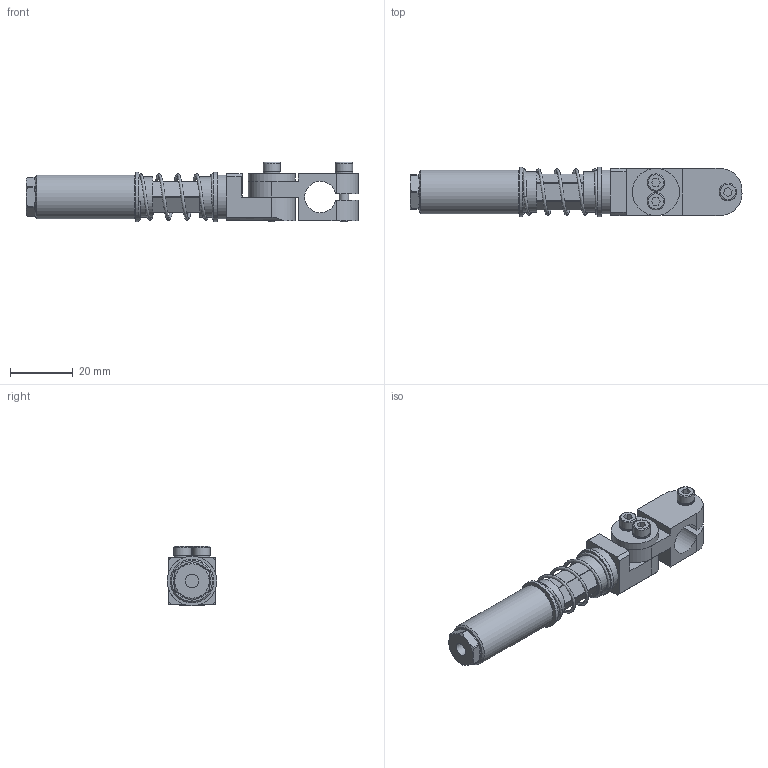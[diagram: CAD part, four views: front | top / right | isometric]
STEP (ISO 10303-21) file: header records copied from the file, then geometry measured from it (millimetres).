
FILE_DESCRIPTION(('STEP AP214'),'1');
FILE_NAME('CA.SAM.141510.stp','2022-01-24T12:45:15',(' '),(' '),'Spatial InterOp 3D',' ',' ');
FILE_SCHEMA(('AUTOMOTIVE_DESIGN { 1 0 10303 214 1 1 1 1 }'));
Length unit declared in the file: millimetre
Products named in the file (13): CA.SAM.141510; V.TCE3x16; R.3.SCH; GVR.10.3; GVR.10.2; M.15x35; ASSEM1; SAE.14181815.4; SAE.14181815.5; SAE.14181815.3; SAE.14181815.2; SAM.1410.1
Assembly tree (17 placements, depth 3):
  CA.SAM.141510
    V.TCE3x16  x3
    R.3.SCH  x3
    GVR.10.3
    GVR.10.2
    M.15x35
      ASSEM1
      M.15x35
    SAE.14181815.4  x2
    SAE.14181815.5
    SAE.14181815.3
    SAE.14181815.2
    SAM.1410.1
Bounding box: 106 x 15.79 x 19 mm (x, y, z)
Volume: 13906 mm3; surface area: 14436.7 mm2
Topology: 15 solids, 15 shells, 791 faces, 2311 edges, 1558 vertices
Faces by surface type: plane 677, cylinder 74, cone 29, torus 7, bspline 4
Full cylindrical faces by diameter (mm): 2.5 x2, 2.7 x1, 3 x3, 3.2 x3, 3.5 x3, 4.2 x1, 5.5 x6, 6.5 x1, 6.8 x3, 8 x3, 8.2 x2, 9.9 x1, 10 x1, 10.1 x1, 11.5 x2, 12.9 x2, 14 x2, 15 x1, 15.8 x2
Entity records: 16650 total; most frequent: CARTESIAN_POINT 3664, DIRECTION 1980, ORIENTED_EDGE 1932, EDGE_CURVE 966, AXIS2_PLACEMENT_3D 713, VERTEX_POINT 668, LINE 554, VECTOR 554
